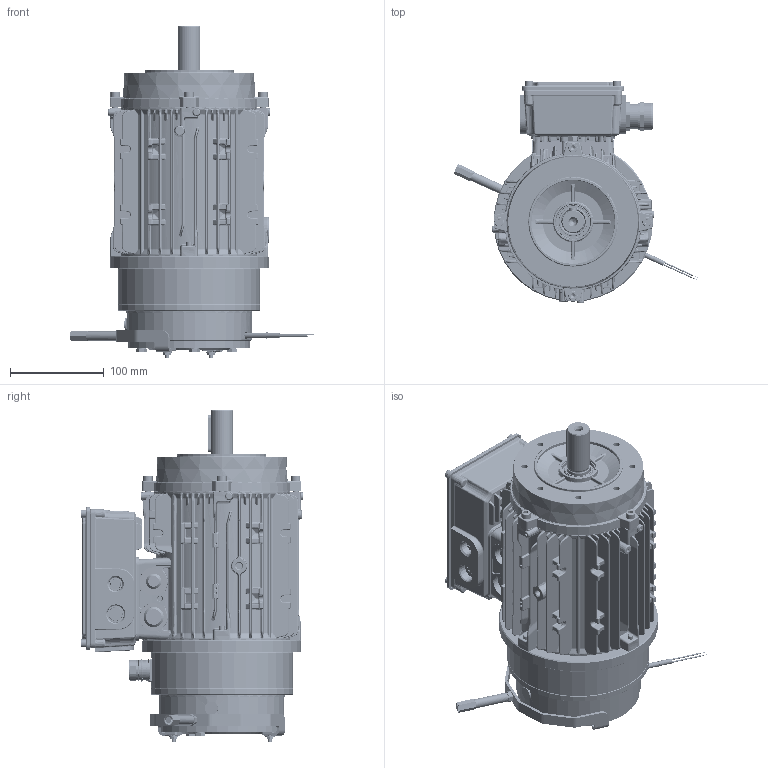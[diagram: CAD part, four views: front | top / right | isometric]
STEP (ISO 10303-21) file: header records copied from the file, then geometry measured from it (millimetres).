
FILE_DESCRIPTION(/* description */ (''),/* implementation_level */ '2;1');
FILE_NAME(/* name */ 'Z:\UTM\Sito\PMAC\BL-B14.90-P20.stp',/* time_stamp */ '2023-05-08T12:20:23+02:00',/* author */ ('cad3'),/* organization */ (''),/* preprocessor_version */ 'ST-DEVELOPER v18.1',/* originating_system */ 'Autodesk Inventor 2022',/* authorisation */ '');
FILE_SCHEMA (('AUTOMOTIVE_DESIGN { 1 0 10303 214 3 1 1 }'));
Products named in the file (1): BL-B14.90-P20
Bounding box: 261.34 x 237.45 x 354.6 mm (x, y, z)
Volume: 1903133.6 mm3; surface area: 788051.3 mm2
Topology: 8 solids, 28 shells, 11090 faces, 27262 edges, 16361 vertices
Faces by surface type: plane 4086, bspline 3146, cylinder 2591, cone 497, torus 433, sphere 337
Full cylindrical faces by diameter (mm): 0.5 x2, 0.9 x12, 1.5 x2, 2 x7, 2.9 x8, 3 x8, 3.2 x8, 3.242 x3, 4 x8, 4.134 x4, 4.2 x4, 4.3 x7, 4.5 x2, 4.917 x11, 5 x26, 5.2 x6, 5.3 x8, 5.4 x1, 5.5 x1, 6 x22, 6.2 x6, 6.3 x3, 6.4 x3, 6.5 x9, 6.6 x1, 6.63 x1, 6.647 x9, 6.8 x1, 7 x3, 8 x14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
Entity records: 544465 total; most frequent: CARTESIAN_POINT 285058, ORIENTED_EDGE 54074, DIRECTION 50155, EDGE_CURVE 27037, AXIS2_PLACEMENT_3D 19615, VERTEX_POINT 16368, EDGE_LOOP 11859, STYLED_ITEM 11098
